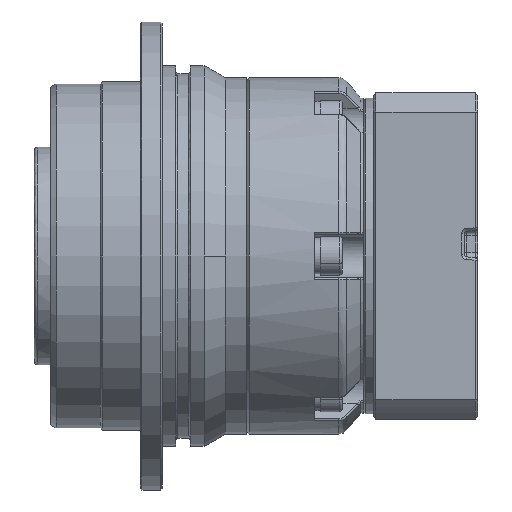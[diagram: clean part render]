
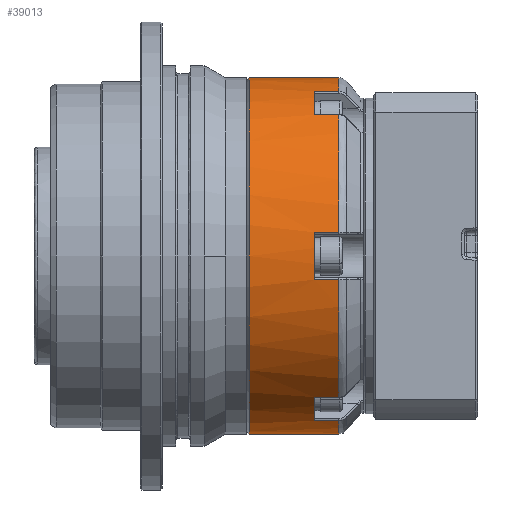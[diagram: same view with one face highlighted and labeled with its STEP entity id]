
A CAD part, front view. The second image highlights one B-rep face of the part: STEP entity #39013.
In plain terms, the highlighted cylindrical face has radius 32.75 mm (diameter 65.5 mm), a partial arc.
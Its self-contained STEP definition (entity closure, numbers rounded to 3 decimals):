
#486 = EDGE_CURVE ( 'NONE', #20171, #10279, #33908, .T. ) ;
#722 = DIRECTION ( 'NONE',  ( 0., 0., 1. ) ) ;
#733 = DIRECTION ( 'NONE',  ( -1., 0., 0. ) ) ;
#784 = CARTESIAN_POINT ( 'NONE',  ( 12.5, 0., 0. ) ) ;
#819 = CIRCLE ( 'NONE', #4085, 32.75 ) ;
#1109 = LINE ( 'NONE', #28131, #56691 ) ;
#1704 = VERTEX_POINT ( 'NONE', #21798 ) ;
#2286 = LINE ( 'NONE', #50516, #25886 ) ;
#2430 = AXIS2_PLACEMENT_3D ( 'NONE', #37957, #41719, #7177 ) ;
#2688 = AXIS2_PLACEMENT_3D ( 'NONE', #784, #733, #722 ) ;
#2762 = EDGE_CURVE ( 'NONE', #24035, #1704, #56497, .T. ) ;
#3410 = DIRECTION ( 'NONE',  ( -1., 0., 0. ) ) ;
#3634 = DIRECTION ( 'NONE',  ( 0., 0., 1. ) ) ;
#3890 = VERTEX_POINT ( 'NONE', #50744 ) ;
#4085 = AXIS2_PLACEMENT_3D ( 'NONE', #45005, #18743, #49281 ) ;
#4795 = DIRECTION ( 'NONE',  ( 1., 0., 0. ) ) ;
#5220 = DIRECTION ( 'NONE',  ( -1., 0., 0. ) ) ;
#5263 = AXIS2_PLACEMENT_3D ( 'NONE', #47345, #21203, #51642 ) ;
#5282 = CARTESIAN_POINT ( 'NONE',  ( 0., -12.472, 30.282 ) ) ;
#5415 = DIRECTION ( 'NONE',  ( -1., 0., 0. ) ) ;
#5476 = CARTESIAN_POINT ( 'NONE',  ( 0., -19.989, 25.942 ) ) ;
#5507 = EDGE_CURVE ( 'NONE', #42473, #3890, #23859, .T. ) ;
#6268 = EDGE_CURVE ( 'NONE', #40949, #11339, #2286, .T. ) ;
#6733 = CARTESIAN_POINT ( 'NONE',  ( 16.921, -32.461, -4.34 ) ) ;
#7177 = DIRECTION ( 'NONE',  ( 0., 0., 1. ) ) ;
#7399 = VERTEX_POINT ( 'NONE', #48573 ) ;
#8187 = LINE ( 'NONE', #45359, #31287 ) ;
#8287 = DIRECTION ( 'NONE',  ( -1., 0., 0. ) ) ;
#9101 = EDGE_CURVE ( 'NONE', #26133, #36727, #45693, .T. ) ;
#9462 = CARTESIAN_POINT ( 'NONE',  ( 12.5, -19.989, 25.942 ) ) ;
#10279 = VERTEX_POINT ( 'NONE', #24374 ) ;
#10358 = CIRCLE ( 'NONE', #48024, 32.75 ) ;
#10907 = EDGE_CURVE ( 'NONE', #7399, #16127, #40350, .T. ) ;
#11048 = VECTOR ( 'NONE', #51573, 1000. ) ;
#11339 = VERTEX_POINT ( 'NONE', #50901 ) ;
#11748 = ORIENTED_EDGE ( 'NONE', *, *, #5507, .F. ) ;
#12828 = ORIENTED_EDGE ( 'NONE', *, *, #15325, .T. ) ;
#13672 = CARTESIAN_POINT ( 'NONE',  ( 16.921, 0., -32.75 ) ) ;
#14572 = VECTOR ( 'NONE', #3410, 1000. ) ;
#15154 = CARTESIAN_POINT ( 'NONE',  ( 0., 0., -32.75 ) ) ;
#15325 = EDGE_CURVE ( 'NONE', #36727, #40949, #10358, .T. ) ;
#15673 = CARTESIAN_POINT ( 'NONE',  ( 12.5, 0., 0. ) ) ;
#16127 = VERTEX_POINT ( 'NONE', #25996 ) ;
#16791 = CARTESIAN_POINT ( 'NONE',  ( 0., -19.989, -25.942 ) ) ;
#16860 = EDGE_CURVE ( 'NONE', #1704, #44365, #25376, .T. ) ;
#17448 = ORIENTED_EDGE ( 'NONE', *, *, #19527, .T. ) ;
#17452 = ORIENTED_EDGE ( 'NONE', *, *, #29245, .T. ) ;
#17529 = EDGE_LOOP ( 'NONE', ( #11748, #54411, #48662, #23708, #17452, #25121, #49850, #34201, #29333, #31631, #40406, #17448, #38367, #12828, #53814, #21459 ) ) ;
#17557 = EDGE_CURVE ( 'NONE', #10279, #24035, #21465, .T. ) ;
#18153 = DIRECTION ( 'NONE',  ( 0., 0., 1. ) ) ;
#18743 = DIRECTION ( 'NONE',  ( -1., 0., 0. ) ) ;
#19527 = EDGE_CURVE ( 'NONE', #44365, #26133, #29431, .T. ) ;
#20171 = VERTEX_POINT ( 'NONE', #24716 ) ;
#21203 = DIRECTION ( 'NONE',  ( -1., 0., 0. ) ) ;
#21260 = VERTEX_POINT ( 'NONE', #45835 ) ;
#21459 = ORIENTED_EDGE ( 'NONE', *, *, #49081, .F. ) ;
#21465 = LINE ( 'NONE', #51631, #11048 ) ;
#21624 = DIRECTION ( 'NONE',  ( 1., 0., 0. ) ) ;
#21798 = CARTESIAN_POINT ( 'NONE',  ( 16.921, -19.989, 25.942 ) ) ;
#22922 = CIRCLE ( 'NONE', #30076, 32.75 ) ;
#23240 = DIRECTION ( 'NONE',  ( 0., 0., 1. ) ) ;
#23708 = ORIENTED_EDGE ( 'NONE', *, *, #10907, .T. ) ;
#23859 = LINE ( 'NONE', #15154, #14572 ) ;
#24035 = VERTEX_POINT ( 'NONE', #25868 ) ;
#24151 = CARTESIAN_POINT ( 'NONE',  ( 16.921, -12.472, 30.282 ) ) ;
#24257 = CARTESIAN_POINT ( 'NONE',  ( 12.5, -12.472, 30.282 ) ) ;
#24374 = CARTESIAN_POINT ( 'NONE',  ( 12.5, -32.461, 4.34 ) ) ;
#24387 = AXIS2_PLACEMENT_3D ( 'NONE', #15673, #8287, #23240 ) ;
#24716 = CARTESIAN_POINT ( 'NONE',  ( 12.5, -32.461, -4.34 ) ) ;
#25121 = ORIENTED_EDGE ( 'NONE', *, *, #50101, .T. ) ;
#25126 = EDGE_CURVE ( 'NONE', #21260, #7399, #8187, .T. ) ;
#25376 = LINE ( 'NONE', #5476, #35733 ) ;
#25868 = CARTESIAN_POINT ( 'NONE',  ( 16.921, -32.461, 4.34 ) ) ;
#25886 = VECTOR ( 'NONE', #47743, 1000. ) ;
#25996 = CARTESIAN_POINT ( 'NONE',  ( 12.5, -19.989, -25.942 ) ) ;
#26133 = VERTEX_POINT ( 'NONE', #24257 ) ;
#28131 = CARTESIAN_POINT ( 'NONE',  ( 0., -32.461, -4.34 ) ) ;
#28146 = AXIS2_PLACEMENT_3D ( 'NONE', #51139, #5220, #18153 ) ;
#29127 = VECTOR ( 'NONE', #4795, 1000. ) ;
#29245 = EDGE_CURVE ( 'NONE', #16127, #54779, #36895, .T. ) ;
#29333 = ORIENTED_EDGE ( 'NONE', *, *, #17557, .T. ) ;
#29431 = CIRCLE ( 'NONE', #2688, 32.75 ) ;
#30076 = AXIS2_PLACEMENT_3D ( 'NONE', #56134, #30337, #3634 ) ;
#30114 = VECTOR ( 'NONE', #21624, 1000. ) ;
#30337 = DIRECTION ( 'NONE',  ( -1., 0., 0. ) ) ;
#30834 = CYLINDRICAL_SURFACE ( 'NONE', #2430, 32.75 ) ;
#31287 = VECTOR ( 'NONE', #45309, 1000. ) ;
#31631 = ORIENTED_EDGE ( 'NONE', *, *, #2762, .T. ) ;
#32772 = CARTESIAN_POINT ( 'NONE',  ( 16.921, -19.989, -25.942 ) ) ;
#33714 = DIRECTION ( 'NONE',  ( 0., 0., 1. ) ) ;
#33908 = CIRCLE ( 'NONE', #24387, 32.75 ) ;
#33935 = DIRECTION ( 'NONE',  ( -1., 0., 0. ) ) ;
#34006 = CARTESIAN_POINT ( 'NONE',  ( 16.921, 0., 0. ) ) ;
#34201 = ORIENTED_EDGE ( 'NONE', *, *, #486, .T. ) ;
#35733 = VECTOR ( 'NONE', #5415, 1000. ) ;
#36727 = VERTEX_POINT ( 'NONE', #24151 ) ;
#36895 = LINE ( 'NONE', #16791, #30114 ) ;
#37344 = CARTESIAN_POINT ( 'NONE',  ( 16.921, 0., 32.75 ) ) ;
#37957 = CARTESIAN_POINT ( 'NONE',  ( 0., 0., 0. ) ) ;
#38367 = ORIENTED_EDGE ( 'NONE', *, *, #9101, .T. ) ;
#39013 = ADVANCED_FACE ( 'NONE', ( #54623 ), #30834, .T. ) ;
#40350 = CIRCLE ( 'NONE', #28146, 32.75 ) ;
#40406 = ORIENTED_EDGE ( 'NONE', *, *, #16860, .T. ) ;
#40949 = VERTEX_POINT ( 'NONE', #37344 ) ;
#41719 = DIRECTION ( 'NONE',  ( -1., 0., 0. ) ) ;
#42473 = VERTEX_POINT ( 'NONE', #13672 ) ;
#44365 = VERTEX_POINT ( 'NONE', #9462 ) ;
#44813 = DIRECTION ( 'NONE',  ( 0., 0., 1. ) ) ;
#44883 = DIRECTION ( 'NONE',  ( -1., 0., 0. ) ) ;
#44893 = CARTESIAN_POINT ( 'NONE',  ( 16.921, 0., 0. ) ) ;
#45005 = CARTESIAN_POINT ( 'NONE',  ( 0.5, 0., 0. ) ) ;
#45309 = DIRECTION ( 'NONE',  ( -1., 0., 0. ) ) ;
#45359 = CARTESIAN_POINT ( 'NONE',  ( 0., -12.472, -30.282 ) ) ;
#45563 = VERTEX_POINT ( 'NONE', #6733 ) ;
#45693 = LINE ( 'NONE', #5282, #29127 ) ;
#45835 = CARTESIAN_POINT ( 'NONE',  ( 16.921, -12.472, -30.282 ) ) ;
#46330 = EDGE_CURVE ( 'NONE', #42473, #21260, #22922, .T. ) ;
#47312 = EDGE_CURVE ( 'NONE', #45563, #20171, #1109, .T. ) ;
#47345 = CARTESIAN_POINT ( 'NONE',  ( 16.921, 0., 0. ) ) ;
#47743 = DIRECTION ( 'NONE',  ( -1., 0., 0. ) ) ;
#48024 = AXIS2_PLACEMENT_3D ( 'NONE', #44893, #44883, #44813 ) ;
#48573 = CARTESIAN_POINT ( 'NONE',  ( 12.5, -12.472, -30.282 ) ) ;
#48662 = ORIENTED_EDGE ( 'NONE', *, *, #25126, .T. ) ;
#49081 = EDGE_CURVE ( 'NONE', #3890, #11339, #819, .T. ) ;
#49281 = DIRECTION ( 'NONE',  ( 0., 0., -1. ) ) ;
#49850 = ORIENTED_EDGE ( 'NONE', *, *, #47312, .T. ) ;
#50028 = CIRCLE ( 'NONE', #5263, 32.75 ) ;
#50101 = EDGE_CURVE ( 'NONE', #54779, #45563, #50028, .T. ) ;
#50516 = CARTESIAN_POINT ( 'NONE',  ( 0., 0., 32.75 ) ) ;
#50744 = CARTESIAN_POINT ( 'NONE',  ( 0.5, 0., -32.75 ) ) ;
#50901 = CARTESIAN_POINT ( 'NONE',  ( 0.5, 0., 32.75 ) ) ;
#51139 = CARTESIAN_POINT ( 'NONE',  ( 12.5, 0., 0. ) ) ;
#51573 = DIRECTION ( 'NONE',  ( 1., 0., 0. ) ) ;
#51631 = CARTESIAN_POINT ( 'NONE',  ( 0., -32.461, 4.34 ) ) ;
#51642 = DIRECTION ( 'NONE',  ( 0., 0., 1. ) ) ;
#53814 = ORIENTED_EDGE ( 'NONE', *, *, #6268, .T. ) ;
#54033 = DIRECTION ( 'NONE',  ( -1., 0., 0. ) ) ;
#54411 = ORIENTED_EDGE ( 'NONE', *, *, #46330, .T. ) ;
#54623 = FACE_OUTER_BOUND ( 'NONE', #17529, .T. ) ;
#54779 = VERTEX_POINT ( 'NONE', #32772 ) ;
#56134 = CARTESIAN_POINT ( 'NONE',  ( 16.921, 0., 0. ) ) ;
#56252 = AXIS2_PLACEMENT_3D ( 'NONE', #34006, #33935, #33714 ) ;
#56497 = CIRCLE ( 'NONE', #56252, 32.75 ) ;
#56691 = VECTOR ( 'NONE', #54033, 1000. ) ;
